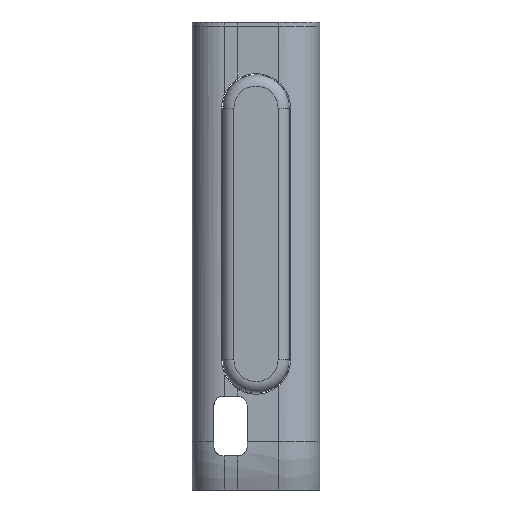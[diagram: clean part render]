
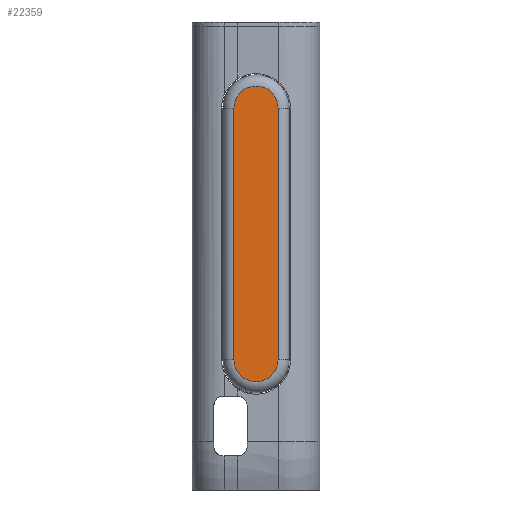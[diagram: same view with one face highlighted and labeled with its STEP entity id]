
A CAD part, left-side view. The second image highlights one B-rep face of the part: STEP entity #22359.
In plain terms, the highlighted planar face has unit normal (-1, 0, 0).
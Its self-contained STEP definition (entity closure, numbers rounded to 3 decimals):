
#21720 = TOROIDAL_SURFACE('',#21721,5.,2.5);
#21721 = AXIS2_PLACEMENT_3D('',#21722,#21723,#21724);
#21722 = CARTESIAN_POINT('',(-44.3,0.,28.5));
#21723 = DIRECTION('',(-1.,0.,0.));
#21724 = DIRECTION('',(0.,1.,0.));
#21735 = EDGE_CURVE('',#21736,#21738,#21740,.T.);
#21736 = VERTEX_POINT('',#21737);
#21737 = CARTESIAN_POINT('',(-46.8,5.,28.5));
#21738 = VERTEX_POINT('',#21739);
#21739 = CARTESIAN_POINT('',(-46.8,-5.,28.5));
#21740 = SURFACE_CURVE('',#21741,(#21746,#21753),.PCURVE_S1.);
#21741 = CIRCLE('',#21742,5.);
#21742 = AXIS2_PLACEMENT_3D('',#21743,#21744,#21745);
#21743 = CARTESIAN_POINT('',(-46.8,0.,28.5));
#21744 = DIRECTION('',(1.,0.,-0.));
#21745 = DIRECTION('',(0.,1.,0.));
#21746 = PCURVE('',#21720,#21747);
#21747 = DEFINITIONAL_REPRESENTATION('',(#21748),#21752);
#21748 = LINE('',#21749,#21750);
#21749 = CARTESIAN_POINT('',(6.283,1.571));
#21750 = VECTOR('',#21751,1.);
#21751 = DIRECTION('',(-1.,0.));
#21752 = ( GEOMETRIC_REPRESENTATION_CONTEXT(2) 
PARAMETRIC_REPRESENTATION_CONTEXT() REPRESENTATION_CONTEXT('2D SPACE',''
  ) );
#21753 = PCURVE('',#21754,#21759);
#21754 = PLANE('',#21755);
#21755 = AXIS2_PLACEMENT_3D('',#21756,#21757,#21758);
#21756 = CARTESIAN_POINT('',(-46.8,0.,0.));
#21757 = DIRECTION('',(-1.,0.,0.));
#21758 = DIRECTION('',(0.,0.,1.));
#21759 = DEFINITIONAL_REPRESENTATION('',(#21760),#21768);
#21760 = ( BOUNDED_CURVE() B_SPLINE_CURVE(2,(#21761,#21762,#21763,#21764
    ,#21765,#21766,#21767),.UNSPECIFIED.,.T.,.F.) 
B_SPLINE_CURVE_WITH_KNOTS((1,2,2,2,2,1),(-2.094,0.,
    2.094,4.189,6.283,8.378),
.UNSPECIFIED.) CURVE() GEOMETRIC_REPRESENTATION_ITEM() 
RATIONAL_B_SPLINE_CURVE((1.,0.5,1.,0.5,1.,0.5,1.)) REPRESENTATION_ITEM(
  '') );
#21761 = CARTESIAN_POINT('',(28.5,5.));
#21762 = CARTESIAN_POINT('',(37.16,5.));
#21763 = CARTESIAN_POINT('',(32.83,-2.5));
#21764 = CARTESIAN_POINT('',(28.5,-10.));
#21765 = CARTESIAN_POINT('',(24.17,-2.5));
#21766 = CARTESIAN_POINT('',(19.84,5.));
#21767 = CARTESIAN_POINT('',(28.5,5.));
#21768 = ( GEOMETRIC_REPRESENTATION_CONTEXT(2) 
PARAMETRIC_REPRESENTATION_CONTEXT() REPRESENTATION_CONTEXT('2D SPACE',''
  ) );
#21784 = CYLINDRICAL_SURFACE('',#21785,2.5);
#21785 = AXIS2_PLACEMENT_3D('',#21786,#21787,#21788);
#21786 = CARTESIAN_POINT('',(-44.3,-5.,28.5));
#21787 = DIRECTION('',(0.,0.,-1.));
#21788 = DIRECTION('',(0.,-1.,0.));
#21810 = CYLINDRICAL_SURFACE('',#21811,2.5);
#21811 = AXIS2_PLACEMENT_3D('',#21812,#21813,#21814);
#21812 = CARTESIAN_POINT('',(-44.3,5.,-28.5));
#21813 = DIRECTION('',(0.,0.,1.));
#21814 = DIRECTION('',(0.,1.,0.));
#22311 = VERTEX_POINT('',#22312);
#22312 = CARTESIAN_POINT('',(-46.8,5.,-28.5));
#22326 = TOROIDAL_SURFACE('',#22327,5.,2.5);
#22327 = AXIS2_PLACEMENT_3D('',#22328,#22329,#22330);
#22328 = CARTESIAN_POINT('',(-44.3,0.,-28.5));
#22329 = DIRECTION('',(-1.,0.,0.));
#22330 = DIRECTION('',(0.,-1.,0.));
#22337 = EDGE_CURVE('',#22311,#21736,#22338,.T.);
#22338 = SURFACE_CURVE('',#22339,(#22343,#22350),.PCURVE_S1.);
#22339 = LINE('',#22340,#22341);
#22340 = CARTESIAN_POINT('',(-46.8,5.,-28.5));
#22341 = VECTOR('',#22342,1.);
#22342 = DIRECTION('',(0.,0.,1.));
#22343 = PCURVE('',#21810,#22344);
#22344 = DEFINITIONAL_REPRESENTATION('',(#22345),#22349);
#22345 = LINE('',#22346,#22347);
#22346 = CARTESIAN_POINT('',(1.571,0.));
#22347 = VECTOR('',#22348,1.);
#22348 = DIRECTION('',(0.,1.));
#22349 = ( GEOMETRIC_REPRESENTATION_CONTEXT(2) 
PARAMETRIC_REPRESENTATION_CONTEXT() REPRESENTATION_CONTEXT('2D SPACE',''
  ) );
#22350 = PCURVE('',#21754,#22351);
#22351 = DEFINITIONAL_REPRESENTATION('',(#22352),#22356);
#22352 = LINE('',#22353,#22354);
#22353 = CARTESIAN_POINT('',(-28.5,5.));
#22354 = VECTOR('',#22355,1.);
#22355 = DIRECTION('',(1.,0.));
#22356 = ( GEOMETRIC_REPRESENTATION_CONTEXT(2) 
PARAMETRIC_REPRESENTATION_CONTEXT() REPRESENTATION_CONTEXT('2D SPACE',''
  ) );
#22359 = ADVANCED_FACE('',(#22360),#21754,.T.);
#22360 = FACE_BOUND('',#22361,.T.);
#22361 = EDGE_LOOP('',(#22362,#22363,#22364,#22392));
#22362 = ORIENTED_EDGE('',*,*,#21735,.F.);
#22363 = ORIENTED_EDGE('',*,*,#22337,.F.);
#22364 = ORIENTED_EDGE('',*,*,#22365,.F.);
#22365 = EDGE_CURVE('',#22366,#22311,#22368,.T.);
#22366 = VERTEX_POINT('',#22367);
#22367 = CARTESIAN_POINT('',(-46.8,-5.,-28.5));
#22368 = SURFACE_CURVE('',#22369,(#22374,#22385),.PCURVE_S1.);
#22369 = CIRCLE('',#22370,5.);
#22370 = AXIS2_PLACEMENT_3D('',#22371,#22372,#22373);
#22371 = CARTESIAN_POINT('',(-46.8,0.,-28.5));
#22372 = DIRECTION('',(1.,0.,0.));
#22373 = DIRECTION('',(0.,-1.,0.));
#22374 = PCURVE('',#21754,#22375);
#22375 = DEFINITIONAL_REPRESENTATION('',(#22376),#22384);
#22376 = ( BOUNDED_CURVE() B_SPLINE_CURVE(2,(#22377,#22378,#22379,#22380
    ,#22381,#22382,#22383),.UNSPECIFIED.,.T.,.F.) 
B_SPLINE_CURVE_WITH_KNOTS((1,2,2,2,2,1),(-2.094,0.,
    2.094,4.189,6.283,8.378),
.UNSPECIFIED.) CURVE() GEOMETRIC_REPRESENTATION_ITEM() 
RATIONAL_B_SPLINE_CURVE((1.,0.5,1.,0.5,1.,0.5,1.)) REPRESENTATION_ITEM(
  '') );
#22377 = CARTESIAN_POINT('',(-28.5,-5.));
#22378 = CARTESIAN_POINT('',(-37.16,-5.));
#22379 = CARTESIAN_POINT('',(-32.83,2.5));
#22380 = CARTESIAN_POINT('',(-28.5,10.));
#22381 = CARTESIAN_POINT('',(-24.17,2.5));
#22382 = CARTESIAN_POINT('',(-19.84,-5.));
#22383 = CARTESIAN_POINT('',(-28.5,-5.));
#22384 = ( GEOMETRIC_REPRESENTATION_CONTEXT(2) 
PARAMETRIC_REPRESENTATION_CONTEXT() REPRESENTATION_CONTEXT('2D SPACE',''
  ) );
#22385 = PCURVE('',#22326,#22386);
#22386 = DEFINITIONAL_REPRESENTATION('',(#22387),#22391);
#22387 = LINE('',#22388,#22389);
#22388 = CARTESIAN_POINT('',(6.283,1.571));
#22389 = VECTOR('',#22390,1.);
#22390 = DIRECTION('',(-1.,0.));
#22391 = ( GEOMETRIC_REPRESENTATION_CONTEXT(2) 
PARAMETRIC_REPRESENTATION_CONTEXT() REPRESENTATION_CONTEXT('2D SPACE',''
  ) );
#22392 = ORIENTED_EDGE('',*,*,#22393,.F.);
#22393 = EDGE_CURVE('',#21738,#22366,#22394,.T.);
#22394 = SURFACE_CURVE('',#22395,(#22399,#22406),.PCURVE_S1.);
#22395 = LINE('',#22396,#22397);
#22396 = CARTESIAN_POINT('',(-46.8,-5.,28.5));
#22397 = VECTOR('',#22398,1.);
#22398 = DIRECTION('',(0.,0.,-1.));
#22399 = PCURVE('',#21754,#22400);
#22400 = DEFINITIONAL_REPRESENTATION('',(#22401),#22405);
#22401 = LINE('',#22402,#22403);
#22402 = CARTESIAN_POINT('',(28.5,-5.));
#22403 = VECTOR('',#22404,1.);
#22404 = DIRECTION('',(-1.,0.));
#22405 = ( GEOMETRIC_REPRESENTATION_CONTEXT(2) 
PARAMETRIC_REPRESENTATION_CONTEXT() REPRESENTATION_CONTEXT('2D SPACE',''
  ) );
#22406 = PCURVE('',#21784,#22407);
#22407 = DEFINITIONAL_REPRESENTATION('',(#22408),#22412);
#22408 = LINE('',#22409,#22410);
#22409 = CARTESIAN_POINT('',(1.571,0.));
#22410 = VECTOR('',#22411,1.);
#22411 = DIRECTION('',(0.,1.));
#22412 = ( GEOMETRIC_REPRESENTATION_CONTEXT(2) 
PARAMETRIC_REPRESENTATION_CONTEXT() REPRESENTATION_CONTEXT('2D SPACE',''
  ) );
